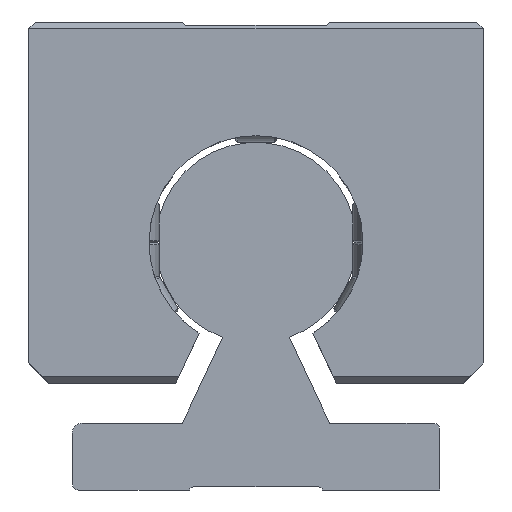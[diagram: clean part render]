
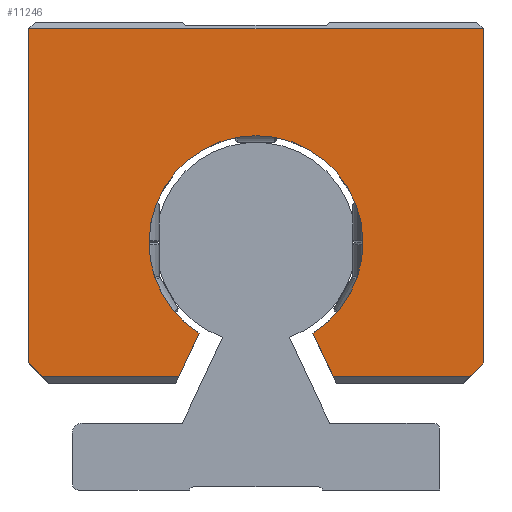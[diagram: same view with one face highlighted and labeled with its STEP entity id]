
A CAD part, left-side view. The second image highlights one B-rep face of the part: STEP entity #11246.
In plain terms, the highlighted planar face has unit normal (-1, 0, 0).
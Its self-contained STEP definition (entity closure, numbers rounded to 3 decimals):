
#9699=CARTESIAN_POINT('',(214.909,-34.,69.0));
#9700=VERTEX_POINT('',#9699);
#9709=CARTESIAN_POINT('',(214.909,-34.,19.0));
#9710=VERTEX_POINT('',#9709);
#9711=CARTESIAN_POINT('',(214.909,-34.,69.0));
#9712=DIRECTION('',(0.0,0.0,-1.0));
#9713=VECTOR('',#9712,50.0);
#9714=LINE('',#9711,#9713);
#9715=EDGE_CURVE('',#9700,#9710,#9714,.T.);
#9982=CARTESIAN_POINT('',(214.909,-8.522,23.458));
#9983=VERTEX_POINT('',#9982);
#9990=CARTESIAN_POINT('',(214.909,8.522,23.458));
#9991=VERTEX_POINT('',#9990);
#9992=CARTESIAN_POINT('',(214.909,0.,37.));
#9993=DIRECTION('',(-1.0,0.0,0.0));
#9994=DIRECTION('',(0.0,-1.0,0.0));
#9995=AXIS2_PLACEMENT_3D('',#9992,#9993,#9994);
#9996=CIRCLE('',#9995,16.0);
#9997=EDGE_CURVE('',#9983,#9991,#9996,.T.);
#10862=CARTESIAN_POINT('',(214.909,34.,69.0));
#10863=VERTEX_POINT('',#10862);
#10870=CARTESIAN_POINT('',(214.909,34.,69.0));
#10871=DIRECTION('',(0.0,-1.0,0.0));
#10872=VECTOR('',#10871,68.0);
#10873=LINE('',#10870,#10872);
#10874=EDGE_CURVE('',#10863,#9700,#10873,.T.);
#10884=CARTESIAN_POINT('',(214.909,32.,17.));
#10885=VERTEX_POINT('',#10884);
#10902=CARTESIAN_POINT('',(214.909,11.534,17.));
#10903=VERTEX_POINT('',#10902);
#10910=CARTESIAN_POINT('',(214.909,11.534,17.));
#10911=DIRECTION('',(0.0,1.0,0.0));
#10912=VECTOR('',#10911,20.466);
#10913=LINE('',#10910,#10912);
#10914=EDGE_CURVE('',#10903,#10885,#10913,.T.);
#10979=CARTESIAN_POINT('',(214.909,34.,19.0));
#10980=VERTEX_POINT('',#10979);
#10981=CARTESIAN_POINT('',(214.909,32.,17.));
#10982=DIRECTION('',(0.0,0.707,0.707));
#10983=VECTOR('',#10982,2.828);
#10984=LINE('',#10981,#10983);
#10985=EDGE_CURVE('',#10885,#10980,#10984,.T.);
#11172=CARTESIAN_POINT('',(214.909,-32.0,17.));
#11173=VERTEX_POINT('',#11172);
#11174=CARTESIAN_POINT('',(214.909,-34.,19.0));
#11175=DIRECTION('',(0.0,0.707,-0.707));
#11176=VECTOR('',#11175,2.828);
#11177=LINE('',#11174,#11176);
#11178=EDGE_CURVE('',#9710,#11173,#11177,.T.);
#11196=CARTESIAN_POINT('',(214.909,-11.534,17.));
#11197=VERTEX_POINT('',#11196);
#11198=CARTESIAN_POINT('',(214.909,-32.0,17.));
#11199=DIRECTION('',(0.0,1.0,0.0));
#11200=VECTOR('',#11199,20.466);
#11201=LINE('',#11198,#11200);
#11202=EDGE_CURVE('',#11173,#11197,#11201,.T.);
#11214=CARTESIAN_POINT('',(214.909,-22.5,69.75));
#11215=DIRECTION('',(1.0,0.0,0.0));
#11216=DIRECTION('',(0.0,0.0,-1.0));
#11217=AXIS2_PLACEMENT_3D('',#11214,#11215,#11216);
#11218=PLANE('',#11217);
#11219=ORIENTED_EDGE('',*,*,#10914,.F.);
#11220=CARTESIAN_POINT('',(214.909,8.522,23.458));
#11221=DIRECTION('',(0.0,0.423,-0.906));
#11222=VECTOR('',#11221,7.126);
#11223=LINE('',#11220,#11222);
#11224=EDGE_CURVE('',#9991,#10903,#11223,.T.);
#11225=ORIENTED_EDGE('',*,*,#11224,.F.);
#11226=ORIENTED_EDGE('',*,*,#9997,.F.);
#11227=CARTESIAN_POINT('',(214.909,-11.534,17.));
#11228=DIRECTION('',(0.0,0.423,0.906));
#11229=VECTOR('',#11228,7.126);
#11230=LINE('',#11227,#11229);
#11231=EDGE_CURVE('',#11197,#9983,#11230,.T.);
#11232=ORIENTED_EDGE('',*,*,#11231,.F.);
#11233=ORIENTED_EDGE('',*,*,#11202,.F.);
#11234=ORIENTED_EDGE('',*,*,#11178,.F.);
#11235=ORIENTED_EDGE('',*,*,#9715,.F.);
#11236=ORIENTED_EDGE('',*,*,#10874,.F.);
#11237=CARTESIAN_POINT('',(214.909,34.,19.0));
#11238=DIRECTION('',(0.0,0.0,1.0));
#11239=VECTOR('',#11238,50.0);
#11240=LINE('',#11237,#11239);
#11241=EDGE_CURVE('',#10980,#10863,#11240,.T.);
#11242=ORIENTED_EDGE('',*,*,#11241,.F.);
#11243=ORIENTED_EDGE('',*,*,#10985,.F.);
#11244=EDGE_LOOP('',(#11219,#11225,#11226,#11232,#11233,#11234,#11235,#11236,#11242,#11243));
#11245=FACE_OUTER_BOUND('',#11244,.T.);
#11246=ADVANCED_FACE('',(#11245),#11218,.F.);
